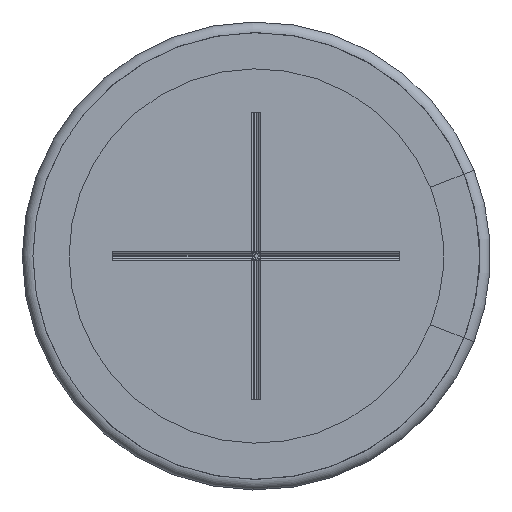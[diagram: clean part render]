
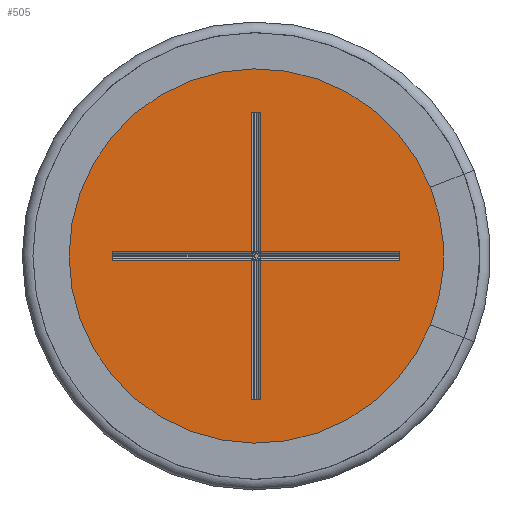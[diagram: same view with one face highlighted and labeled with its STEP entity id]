
A CAD part, front view. The second image highlights one B-rep face of the part: STEP entity #505.
In plain terms, the highlighted planar face has unit normal (0, -1, 0).
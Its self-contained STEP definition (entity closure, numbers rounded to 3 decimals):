
#88=FACE_BOUND('',#720,.T.);
#89=FACE_BOUND('',#721,.T.);
#505=ADVANCED_FACE('',(#88,#89),#589,.T.);
#589=PLANE('',#2054);
#720=EDGE_LOOP('',(#1124));
#721=EDGE_LOOP('',(#1125,#1126,#1127,#1128,#1129,#1130,#1131,#1132,#1133,
#1134,#1135,#1136));
#832=LINE('',#2916,#928);
#833=LINE('',#2919,#929);
#834=LINE('',#2921,#930);
#835=LINE('',#2923,#931);
#836=LINE('',#2925,#932);
#837=LINE('',#2927,#933);
#838=LINE('',#2929,#934);
#839=LINE('',#2931,#935);
#840=LINE('',#2933,#936);
#841=LINE('',#2935,#937);
#842=LINE('',#2937,#938);
#843=LINE('',#2939,#939);
#928=VECTOR('',#2373,1.);
#929=VECTOR('',#2374,1.);
#930=VECTOR('',#2375,1.);
#931=VECTOR('',#2376,1.);
#932=VECTOR('',#2377,1.);
#933=VECTOR('',#2378,1.);
#934=VECTOR('',#2379,1.);
#935=VECTOR('',#2380,1.);
#936=VECTOR('',#2381,1.);
#937=VECTOR('',#2382,1.);
#938=VECTOR('',#2383,1.);
#939=VECTOR('',#2384,1.);
#1124=ORIENTED_EDGE('',*,*,#1686,.T.);
#1125=ORIENTED_EDGE('',*,*,#1687,.F.);
#1126=ORIENTED_EDGE('',*,*,#1688,.T.);
#1127=ORIENTED_EDGE('',*,*,#1689,.T.);
#1128=ORIENTED_EDGE('',*,*,#1690,.F.);
#1129=ORIENTED_EDGE('',*,*,#1691,.T.);
#1130=ORIENTED_EDGE('',*,*,#1692,.T.);
#1131=ORIENTED_EDGE('',*,*,#1693,.T.);
#1132=ORIENTED_EDGE('',*,*,#1694,.T.);
#1133=ORIENTED_EDGE('',*,*,#1695,.T.);
#1134=ORIENTED_EDGE('',*,*,#1696,.T.);
#1135=ORIENTED_EDGE('',*,*,#1697,.T.);
#1136=ORIENTED_EDGE('',*,*,#1698,.T.);
#1512=VERTEX_POINT('',#2915);
#1513=VERTEX_POINT('',#2917);
#1514=VERTEX_POINT('',#2918);
#1515=VERTEX_POINT('',#2920);
#1516=VERTEX_POINT('',#2922);
#1517=VERTEX_POINT('',#2924);
#1518=VERTEX_POINT('',#2926);
#1519=VERTEX_POINT('',#2928);
#1520=VERTEX_POINT('',#2930);
#1521=VERTEX_POINT('',#2932);
#1522=VERTEX_POINT('',#2934);
#1523=VERTEX_POINT('',#2936);
#1524=VERTEX_POINT('',#2938);
#1686=EDGE_CURVE('',#1512,#1512,#1900,.T.);
#1687=EDGE_CURVE('',#1513,#1514,#832,.T.);
#1688=EDGE_CURVE('',#1513,#1515,#833,.T.);
#1689=EDGE_CURVE('',#1515,#1516,#834,.T.);
#1690=EDGE_CURVE('',#1517,#1516,#835,.T.);
#1691=EDGE_CURVE('',#1517,#1518,#836,.T.);
#1692=EDGE_CURVE('',#1518,#1519,#837,.T.);
#1693=EDGE_CURVE('',#1519,#1520,#838,.T.);
#1694=EDGE_CURVE('',#1520,#1521,#839,.T.);
#1695=EDGE_CURVE('',#1521,#1522,#840,.T.);
#1696=EDGE_CURVE('',#1522,#1523,#841,.T.);
#1697=EDGE_CURVE('',#1523,#1524,#842,.T.);
#1698=EDGE_CURVE('',#1524,#1514,#843,.T.);
#1900=CIRCLE('',#2053,10.5);
#2053=AXIS2_PLACEMENT_3D('',#2914,#2371,#2372);
#2054=AXIS2_PLACEMENT_3D('',#2940,#2385,#2386);
#2371=DIRECTION('',(0.,-1.,0.));
#2372=DIRECTION('',(0.,0.,-1.));
#2373=DIRECTION('',(-1.,0.,0.));
#2374=DIRECTION('',(0.,0.,-1.));
#2375=DIRECTION('',(1.,0.,0.));
#2376=DIRECTION('',(0.,0.,1.));
#2377=DIRECTION('',(-1.,0.,0.));
#2378=DIRECTION('',(0.,0.,-1.));
#2379=DIRECTION('',(-1.,0.,0.));
#2380=DIRECTION('',(0.,0.,1.));
#2381=DIRECTION('',(-1.,0.,0.));
#2382=DIRECTION('',(0.,0.,1.));
#2383=DIRECTION('',(1.,0.,0.));
#2384=DIRECTION('',(0.,0.,1.));
#2385=DIRECTION('',(0.,-1.,0.));
#2386=DIRECTION('',(0.,0.,-1.));
#2914=CARTESIAN_POINT('',(0.,0.1,0.));
#2915=CARTESIAN_POINT('',(0.,0.1,-10.5));
#2916=CARTESIAN_POINT('',(0.15,0.1,6.75));
#2917=CARTESIAN_POINT('',(0.212,0.1,6.75));
#2918=CARTESIAN_POINT('',(-0.212,0.1,6.75));
#2919=CARTESIAN_POINT('',(0.212,0.1,0.15));
#2920=CARTESIAN_POINT('',(0.212,0.1,0.212));
#2921=CARTESIAN_POINT('',(6.75,0.1,0.212));
#2922=CARTESIAN_POINT('',(6.75,0.1,0.212));
#2923=CARTESIAN_POINT('',(6.75,0.1,-0.15));
#2924=CARTESIAN_POINT('',(6.75,0.1,-0.212));
#2925=CARTESIAN_POINT('',(0.15,0.1,-0.212));
#2926=CARTESIAN_POINT('',(0.212,0.1,-0.212));
#2927=CARTESIAN_POINT('',(0.212,0.1,-6.75));
#2928=CARTESIAN_POINT('',(0.212,0.1,-6.75));
#2929=CARTESIAN_POINT('',(0.15,0.1,-6.75));
#2930=CARTESIAN_POINT('',(-0.212,0.1,-6.75));
#2931=CARTESIAN_POINT('',(-0.212,0.1,-0.15));
#2932=CARTESIAN_POINT('',(-0.212,0.1,-0.212));
#2933=CARTESIAN_POINT('',(-6.75,0.1,-0.212));
#2934=CARTESIAN_POINT('',(-6.75,0.1,-0.212));
#2935=CARTESIAN_POINT('',(-6.75,0.1,-0.15));
#2936=CARTESIAN_POINT('',(-6.75,0.1,0.212));
#2937=CARTESIAN_POINT('',(-0.15,0.1,0.212));
#2938=CARTESIAN_POINT('',(-0.212,0.1,0.212));
#2939=CARTESIAN_POINT('',(-0.212,0.1,6.75));
#2940=CARTESIAN_POINT('',(0.,0.1,0.));
